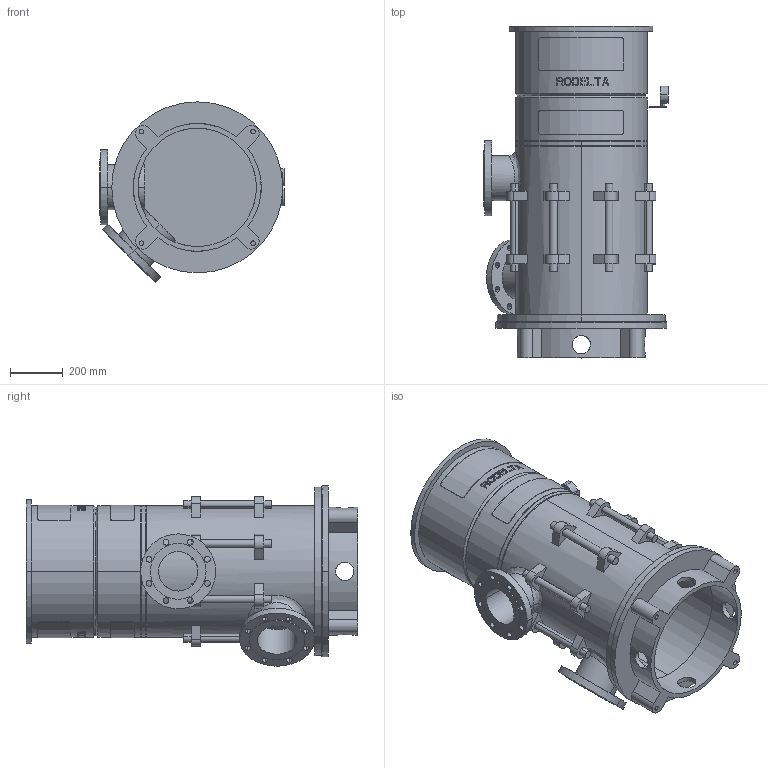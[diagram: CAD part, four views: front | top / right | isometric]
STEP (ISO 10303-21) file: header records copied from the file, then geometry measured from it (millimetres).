
FILE_DESCRIPTION((''),'2;1');
FILE_NAME('LS6_2TR_0GR_ABOVE_30KW','2023-08-15T',('Lyritlocal'),(''),'PRO/ENGINEER BY PARAMETRIC TECHNOLOGY CORPORATION, 2016360','PRO/ENGINEER BY PARAMETRIC TECHNOLOGY CORPORATION, 2016360','');
FILE_SCHEMA(('CONFIG_CONTROL_DESIGN'));
Length unit declared in the file: millimetre
Products named in the file (1): LS6_2TR_0GR_ABOVE_30KW
Bounding box: 700 x 1261 x 685.27 mm (x, y, z)
Volume: 44515148.4 mm3; surface area: 5930606.2 mm2
Topology: 3 solids, 7 shells, 684 faces, 1767 edges, 1174 vertices
Faces by surface type: plane 422, cylinder 242, cone 12, bspline 8
Entity records: 22729 total; most frequent: CARTESIAN_POINT 6117, ORIENTED_EDGE 3518, DIRECTION 3273, EDGE_CURVE 1767, AXIS2_PLACEMENT_3D 1237, VERTEX_POINT 1174, EDGE_LOOP 829, VECTOR 799
